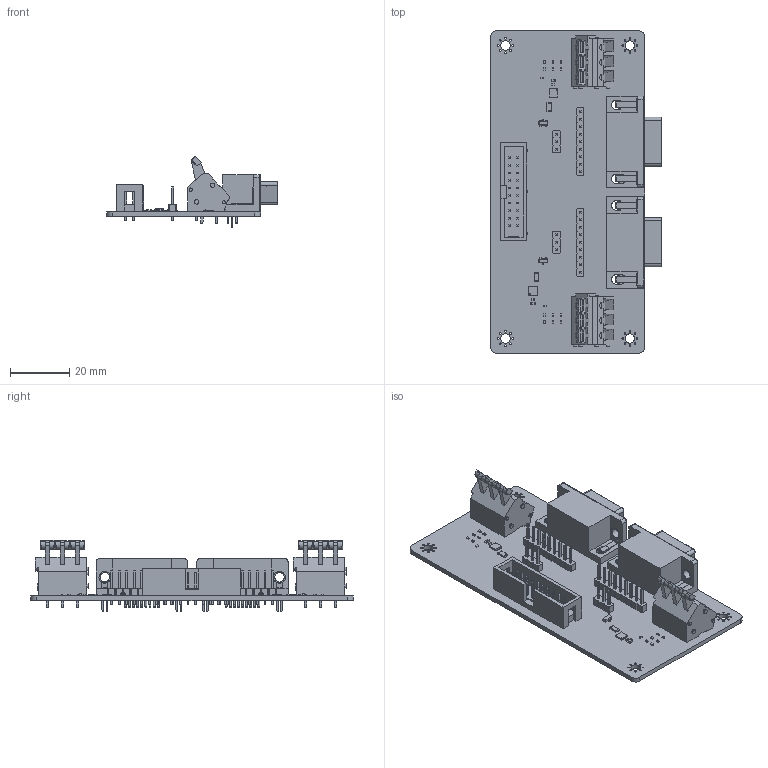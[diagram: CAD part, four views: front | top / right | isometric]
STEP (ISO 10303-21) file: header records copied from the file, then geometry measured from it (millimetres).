
FILE_DESCRIPTION(('KiCad electronic assembly'),'2;1');
FILE_NAME('glasgow-can.step','2020-12-19T19:22:12',('An Author'),( 'A Company'),'Open CASCADE STEP processor 6.9', 'KiCad to STEP converter','Unknown');
FILE_SCHEMA(('AUTOMOTIVE_DESIGN { 1 0 10303 214 1 1 1 1 }'));
Length unit declared in the file: millimetre
Products named in the file (26): Open CASCADE STEP translator 6.9 1; DSUB-9_Male_Horizontal_P2.77x2.84mm_EdgePinOffset7.70mm_Housed_
MountingHolesOffset9.12mm; SOLID; DFN-8-1EP_3x3mm_P0.65mm_EP1.7x2.05mm; R_0402_1005Metric; R_1206_3216Metric; PinHeader_1x09_P2.54mm_Vertical; PinHeader_1x03_P2.54mm_Vertical; c-2834077-2-a-3d; IDC-Header_2x10_P2.54mm_Vertical; LED_0402_1005Metric; SOT-23; C_0603_1608Metric; C_0402_1005Metric; COMPOUND
Assembly tree (46 placements, depth 3):
  Open CASCADE STEP translator 6.9 1
    DSUB-9_Male_Horizontal_P2.77x2.84mm_EdgePinOffset7.70mm_Housed_
MountingHolesOffset9.12mm  x2
      SOLID
    DFN-8-1EP_3x3mm_P0.65mm_EP1.7x2.05mm  x2
      SOLID
    R_0402_1005Metric  x8
      SOLID
    R_1206_3216Metric  x2
      SOLID
    PinHeader_1x09_P2.54mm_Vertical  x2
      SOLID
    PinHeader_1x03_P2.54mm_Vertical  x2
      SOLID
    c-2834077-2-a-3d  x2
      SOLID
    IDC-Header_2x10_P2.54mm_Vertical
      SOLID
    LED_0402_1005Metric  x6
      SOLID
    SOT-23  x2
      SOLID
    C_0603_1608Metric  x2
      SOLID
    C_0402_1005Metric  x2
      SOLID
    COMPOUND
Bounding box: 57.64 x 109 x 24.18 mm (x, y, z)
Volume: 22999.2 mm3; surface area: 24290.2 mm2
Topology: 34 solids, 36 shells, 2898 faces, 7266 edges, 4614 vertices
Faces by surface type: plane 2245, cylinder 515, bspline 54, torus 48, cone 28, revolution 8
Full cylindrical faces by diameter (mm): 0.2 x2, 0.5 x32, 0.64 x54, 1 x68, 1.3 x12, 3.2 x12, 4 x4
Entity records: 105250 total; most frequent: CARTESIAN_POINT 17951, DIRECTION 14871, LINE 10064, VECTOR 10064, ORIENTED_EDGE 7612, PCURVE 7612, DEFINITIONAL_REPRESENTATION 7612, EDGE_CURVE 3806
